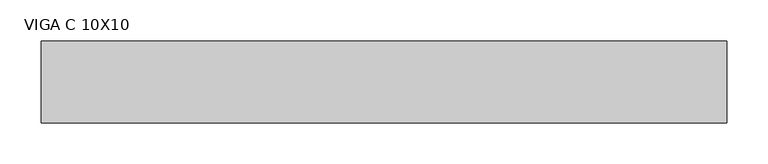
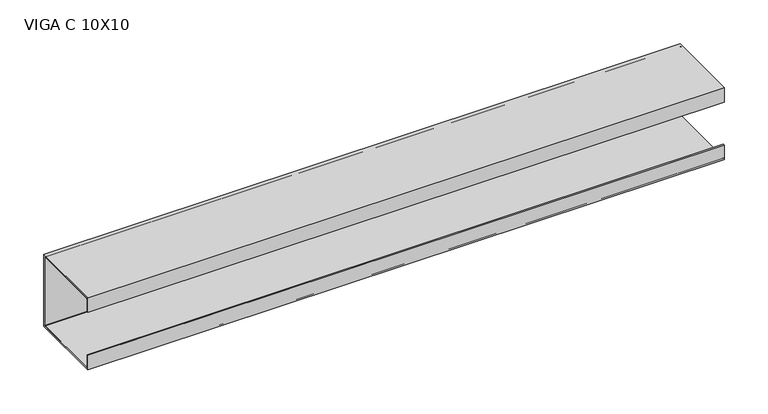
"""IFC4 building model written with IfcOpenShell, lengths in millimetres: beam geometry, VIGA PERFIL C AÇO : VIGA C 10X10."""

from ifc_helpers import new_model, si_unit, point, frame, frame_2d, origin, place, context, project, spatial, polyline, circle_curve, trimmed, segment, composite_curve, outline, extrude, source, transform, mapped, element, save


def viga_c_10x10_03d0fb69(model_context):
    return source(origin(), model_context, "Body", "SweptSolid", [
        extrude(outline(polyline([(9.2, -50.0), (-90.8, -50.0), (-90.8, -30.0), (-88.9, -30.0), (-88.9, -48.1), (7.3, -48.1), (7.3, 48.1), (-88.9, 48.1), (-88.9, 30.0), (-90.8, 30.0), (-90.8, 50.0), (9.2, 50.0), (9.2, -50.0)])), frame((-419.0, 0.0, 0.0), z_axis=(1.0, 0.0, 0.0), x_axis=(0.0, 1.0, 0.0)), (0.0, 0.0, 1.0), 835.0),
        extrude(outline(composite_curve([segment(trimmed(circle_curve(frame_2d((5.4, -46.2)), 3.8), [point((9.2, -46.2))], [point((5.4, -50.0))], False, "CARTESIAN"), True, "CONTINUOUS"), segment(polyline([(5.4, -50.0), (-87.0, -50.0)]), True, "CONTINUOUS"), segment(trimmed(circle_curve(frame_2d((-87.0, -46.2)), 3.8), [point((-87.0, -50.0))], [point((-90.8, -46.2))], False, "CARTESIAN"), True, "CONTINUOUS"), segment(polyline([(-90.8, -46.2), (-90.8, -30.0), (-88.9, -30.0), (-88.9, -46.2)]), True, "CONTINUOUS"), segment(trimmed(circle_curve(frame_2d((-87.0, -46.2)), 1.9), [point((-88.9, -46.2))], [point((-87.0, -48.1))], True, "CARTESIAN"), True, "CONTINUOUS"), segment(polyline([(-87.0, -48.1), (5.4, -48.1)]), True, "CONTINUOUS"), segment(trimmed(circle_curve(frame_2d((5.4, -46.2)), 1.9), [point((5.4, -48.1))], [point((7.3, -46.2))], True, "CARTESIAN"), True, "CONTINUOUS"), segment(polyline([(7.3, -46.2), (7.3, 46.2)]), True, "CONTINUOUS"), segment(trimmed(circle_curve(frame_2d((5.4, 46.2)), 1.9), [point((7.3, 46.2))], [point((5.4, 48.1))], True, "CARTESIAN"), True, "CONTINUOUS"), segment(polyline([(5.4, 48.1), (-87.0, 48.1)]), True, "CONTINUOUS"), segment(trimmed(circle_curve(frame_2d((-87.0, 46.2)), 1.9), [point((-87.0, 48.1))], [point((-88.9, 46.2))], True, "CARTESIAN"), True, "CONTINUOUS"), segment(polyline([(-88.9, 46.2), (-88.9, 30.0), (-90.8, 30.0), (-90.8, 46.2)]), True, "CONTINUOUS"), segment(trimmed(circle_curve(frame_2d((-87.0, 46.2)), 3.8), [point((-90.8, 46.2))], [point((-87.0, 50.0))], False, "CARTESIAN"), True, "CONTINUOUS"), segment(polyline([(-87.0, 50.0), (5.4, 50.0)]), True, "CONTINUOUS"), segment(trimmed(circle_curve(frame_2d((5.4, 46.2)), 3.8), [point((5.4, 50.0))], [point((9.2, 46.2))], False, "CARTESIAN"), True, "CONTINUOUS"), segment(polyline([(9.2, 46.2), (9.2, -46.2)]), True, "CONTINUOUS")], self_intersect=False)), frame((-419.0, 0.0, 0.0), z_axis=(1.0, 0.0, 0.0), x_axis=(0.0, 1.0, 0.0)), (0.0, 0.0, 1.0), 835.0),
    ])


if __name__ == "__main__":
    model = new_model("IFC4")
    model_context = context("Model", 3, world=origin())
    ifc_project = project(units=[si_unit("LENGTHUNIT", "METRE", prefix="MILLI")], contexts=[model_context])
    site = spatial("IfcSite", under=ifc_project)
    building = spatial("IfcBuilding", under=site)
    placement = place(None, origin())
    viga_c_10x10_shape = viga_c_10x10_03d0fb69(model_context)
    element("IfcBeam", 1, ObjectType="VIGA PERFIL C AÇO : VIGA C 10X10", at=placement, inside=building, context=model_context, shape_type="MappedRepresentation", body=[
        mapped(viga_c_10x10_shape, transform((0.0, 0.0, 0.0), x_axis=(1.0, 0.0, 0.0), y_axis=(0.0, 1.0, 0.0), z_axis=(0.0, 0.0, 1.0))),
    ])
    save(model, "model.ifc")
